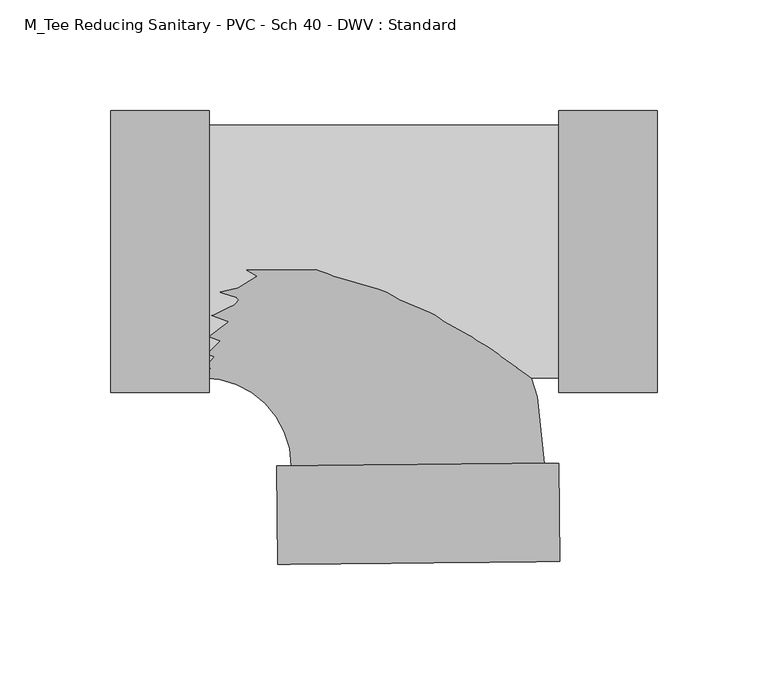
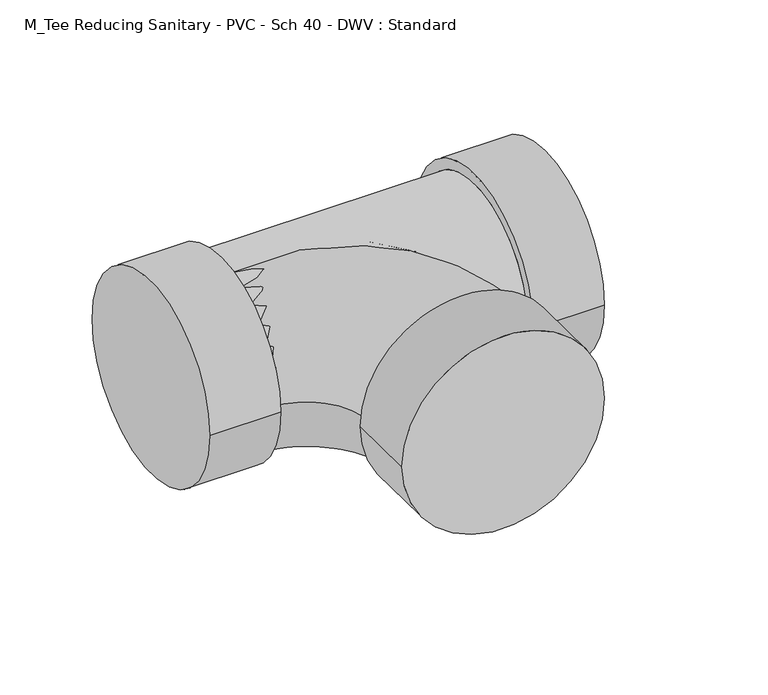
"""IFC4 building model written with IfcOpenShell, lengths in millimetres: pipe fitting geometry, M_Tee Reducing Sanitary - PVC - Sch 40 - DWV : Standard."""

from ifc_helpers import new_model, si_unit, point, frame, origin, place, context, project, spatial, circle_curve, ellipse_curve, trimmed, source, transform, mapped, element, save
from ifc_brep_helpers import plane_surface, cylinder_surface, revolved_surface, advanced_brep


def m_tee_reducing_sanitary_pvc_sch_40_dwv_standard_c42f3c59(model_context):
    return source(origin(), model_context, "Body", "AdvancedBrep", [
        advanced_brep(
        [(64.7074441, -63.754, 0.0), (64.7074441, 63.754, 0.0), (64.7074441, -57.15, 0.0), (64.7074441, 57.15, 0.0), (109.1574441, -63.754, 0.0), (109.1574441, 63.754, 0.0), (-93.4599062, 57.15, 0.0), (-93.4599062, -57.15, 0.0), (-137.9099062, -63.754, 0.0), (-137.9099062, 63.754, 0.0), (-93.4599062, -63.754, 0.0), (-93.4599062, 63.754, 0.0)],
        [
            (0, 1, circle_curve(frame((64.7074441, 0.0, 0.0), z_axis=(-1.0, 0.0, 0.0), x_axis=(0.0, 1.0, 0.0)), 63.754)),
            (1, 0, circle_curve(frame((64.7074441, 0.0, 0.0), z_axis=(-1.0, 0.0, 0.0), x_axis=(0.0, 1.0, 0.0)), 63.754)),
            (2, 3, circle_curve(frame((64.7074441, 0.0, 0.0), z_axis=(1.0, 0.0, 0.0), x_axis=(0.0, 0.0, -1.0)), 57.15)),
            (3, 2, circle_curve(frame((64.7074441, 0.0, 0.0), z_axis=(1.0, 0.0, 0.0), x_axis=(0.0, 0.0, 1.0)), 57.15)),
            (4, 5, circle_curve(frame((109.1574441, 0.0, 0.0), z_axis=(1.0, 0.0, 0.0), x_axis=(0.0, 1.0, 0.0)), 63.754)),
            (5, 4, circle_curve(frame((109.1574441, 0.0, 0.0), z_axis=(1.0, 0.0, 0.0), x_axis=(0.0, 1.0, 0.0)), 63.754)),
            (0, 4),
            (5, 1),
            (6, 3),
            (2, 7),
            (7, 6, circle_curve(frame((-93.4599062, 0.0, 0.0), z_axis=(1.0, 0.0, 0.0), x_axis=(0.0, 0.0, -1.0)), 57.15)),
            (6, 7, circle_curve(frame((-93.4599062, 0.0, 0.0), z_axis=(1.0, 0.0, 0.0), x_axis=(0.0, 0.0, 1.0)), 57.15)),
            (8, 9, circle_curve(frame((-137.9099062, 0.0, 0.0), z_axis=(-1.0, 0.0, 0.0), x_axis=(0.0, 1.0, 0.0)), 63.754)),
            (9, 8, circle_curve(frame((-137.9099062, 0.0, 0.0), z_axis=(-1.0, 0.0, 0.0), x_axis=(0.0, 1.0, 0.0)), 63.754)),
            (10, 11, circle_curve(frame((-93.4599062, 0.0, 0.0), z_axis=(1.0, 0.0, 0.0), x_axis=(0.0, 1.0, 0.0)), 63.754)),
            (11, 10, circle_curve(frame((-93.4599062, 0.0, 0.0), z_axis=(1.0, 0.0, 0.0), x_axis=(0.0, 1.0, 0.0)), 63.754)),
            (8, 10),
            (11, 9),
        ],
        [
            plane_surface(frame((64.7074441, 0.0, 0.0), z_axis=(-1.0, 0.0, 0.0), x_axis=(0.0, 0.0, 1.0))),
            plane_surface(frame((109.1574441, 0.0, 0.0), z_axis=(1.0, 0.0, 0.0), x_axis=(0.0, 0.0, 1.0))),
            cylinder_surface(frame((64.7074441, 0.0, 0.0), z_axis=(-1.0, 0.0, 0.0), x_axis=(0.0, 1.0, 0.0)), 63.754),
            cylinder_surface(frame((-93.4599062, 0.0, 0.0), z_axis=(1.0, 0.0, 0.0), x_axis=(0.0, 0.0, -1.0)), 57.15),
            cylinder_surface(frame((-93.4599062, 0.0, 0.0), z_axis=(1.0, 0.0, 0.0), x_axis=(0.0, 0.0, 1.0)), 57.15),
            plane_surface(frame((-137.9099062, 0.0, 0.0), z_axis=(-1.0, 0.0, 0.0), x_axis=(0.0, 0.0, 1.0))),
            plane_surface(frame((-93.4599062, 0.0, 0.0), z_axis=(1.0, 0.0, 0.0), x_axis=(0.0, 0.0, 1.0))),
            cylinder_surface(frame((-137.9099062, 0.0, 0.0), z_axis=(-1.0, 0.0, 0.0), x_axis=(0.0, 1.0, 0.0)), 63.754),
        ],
        [
            (0, [[1, 2], [3, 4]]),
            (1, [[5, 6]]),
            (2, [[-1, 7, -6, 8]]),
            (2, [[-2, -8, -5, -7]]),
            (3, [[9, -3, 10, 11]]),
            (4, [[-9, 12, -10, -4]]),
            (5, [[13, 14]]),
            (6, [[15, 16], [-11, -12]]),
            (7, [[-13, 17, -16, 18]]),
            (7, [[-14, -18, -15, -17]]),
        ],
    ),
        advanced_brep(
        [(-62.7942712, -96.9758882, 0.0), (64.7074441, -95.7099266, 0.0), (58.1037697, -95.7754943, 0.0), (-56.1905967, -96.9103205, 0.0), (-62.3529499, -141.4236973, 0.0), (65.1487654, -140.1577357, 0.0), (-96.3476562, -57.15, 0.0), (-96.3476562, 57.15, 0.0)],
        [
            (0, 1, circle_curve(frame((0.9565865, -96.3429074, 0.0), z_axis=(-0.009928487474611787, 0.999950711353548, 0.0), x_axis=(0.999950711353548, 0.009928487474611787, 0.0)), 63.754)),
            (1, 0, circle_curve(frame((0.9565865, -96.3429074, 0.0), z_axis=(-0.009928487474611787, 0.999950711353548, 0.0), x_axis=(0.999950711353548, 0.009928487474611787, 0.0)), 63.754)),
            (2, 3, circle_curve(frame((0.9565865, -96.3429074, 0.0), z_axis=(0.009928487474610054, -0.9999507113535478, 0.0), x_axis=(0.9999507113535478, 0.009928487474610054, 0.0)), 57.15)),
            (3, 2, circle_curve(frame((0.9565865, -96.3429074, 0.0), z_axis=(0.009928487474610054, -0.9999507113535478, 0.0), x_axis=(0.9999507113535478, 0.009928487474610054, 0.0)), 57.15)),
            (4, 5, circle_curve(frame((1.3979078, -140.7907165, 0.0), z_axis=(0.009928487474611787, -0.999950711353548, 0.0), x_axis=(0.999950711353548, 0.009928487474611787, 0.0)), 63.754)),
            (5, 4, circle_curve(frame((1.3979078, -140.7907165, 0.0), z_axis=(0.009928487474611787, -0.999950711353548, 0.0), x_axis=(0.999950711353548, 0.009928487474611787, 0.0)), 63.754)),
            (0, 4),
            (5, 1),
            (6, 7, circle_curve(frame((-96.3476562, 0.0, 0.0), z_axis=(-1.0, 0.0, 0.0), x_axis=(0.0, 1.0, 0.0)), 57.15)),
            (7, 6, circle_curve(frame((-96.3476562, 0.0, 0.0), z_axis=(-1.0, 0.0, 0.0), x_axis=(0.0, 1.0, 0.0)), 57.15)),
            (6, 3, circle_curve(frame((-96.3476562, -97.309039, 0.0), z_axis=(0.0, 0.0, -1.0), x_axis=(0.0, 1.0, 0.0)), 40.159039)),
            (2, 7, circle_curve(frame((-96.3476562, -97.309039, 0.0), z_axis=(0.0, 0.0, 1.0), x_axis=(0.0, 1.0, 0.0)), 154.459039)),
        ],
        [
            plane_surface(frame((0.9565865, -96.3429074, 0.0), z_axis=(-0.009928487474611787, 0.999950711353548, 0.0), x_axis=(0.0, 0.0, 1.0))),
            plane_surface(frame((1.3979078, -140.7907165, 0.0), z_axis=(0.009928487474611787, -0.999950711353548, 0.0), x_axis=(0.0, 0.0, 1.0))),
            cylinder_surface(frame((0.9565865, -96.3429074, 0.0), z_axis=(-0.009928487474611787, 0.999950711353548, 0.0), x_axis=(0.999950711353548, 0.009928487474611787, 0.0)), 63.754),
            plane_surface(frame((-96.3476562, 0.0, 0.0), z_axis=(-1.0, 0.0, 0.0), x_axis=(0.0, 0.0, 1.0))),
            revolved_surface(trimmed(ellipse_curve(frame((-96.3476562, 0.0, 0.0), z_axis=(-1.0, 0.0, 0.0), x_axis=(0.0, 1.0, 0.0)), 57.15, 57.15), [point((-96.3476562, -57.15, 0.0))], [point((-96.3476562, 57.15, 0.0))], True, "CARTESIAN"), (-96.3476562, -97.309039, 0.0), (0.0, 0.0, -1.0)),
            revolved_surface(trimmed(ellipse_curve(frame((-96.3476562, 0.0, 0.0), z_axis=(-1.0, 0.0, 0.0), x_axis=(0.0, 1.0, 0.0)), 57.15, 57.15), [point((-96.3476562, 57.15, 0.0))], [point((-96.3476562, -57.15, 0.0))], True, "CARTESIAN"), (-96.3476562, -97.309039, 0.0), (0.0, 0.0, -1.0)),
        ],
        [
            (0, [[1, 2], [3, 4]]),
            (1, [[5, 6]]),
            (2, [[-1, 7, -6, 8]]),
            (2, [[-2, -8, -5, -7]]),
            (3, [[9, 10]]),
            (4, [[-9, 11, -3, 12]]),
            (5, [[-10, -12, -4, -11]]),
        ],
    ),
    ])


if __name__ == "__main__":
    model = new_model("IFC4")
    model_context = context("Model", 3, world=origin())
    ifc_project = project(units=[si_unit("LENGTHUNIT", "METRE", prefix="MILLI")], contexts=[model_context])
    site = spatial("IfcSite", under=ifc_project)
    building = spatial("IfcBuilding", under=site)
    placement = place(None, origin())
    m_tee_reducing_sanitary_pvc_sch_40_dwv_standard_shape = m_tee_reducing_sanitary_pvc_sch_40_dwv_standard_c42f3c59(model_context)
    element("IfcPipeFitting", 1, ObjectType="M_Tee Reducing Sanitary - PVC - Sch 40 - DWV : Standard", at=placement, inside=building, context=model_context, shape_type="MappedRepresentation", body=[
        mapped(m_tee_reducing_sanitary_pvc_sch_40_dwv_standard_shape, transform((0.0, 0.0, 0.0), x_axis=(1.0, 0.0, 0.0), y_axis=(0.0, 1.0, 0.0), z_axis=(0.0, 0.0, 1.0))),
    ])
    save(model, "model.ifc")
